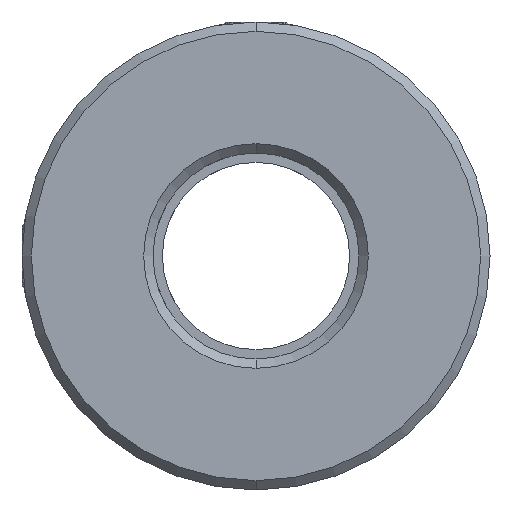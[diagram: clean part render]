
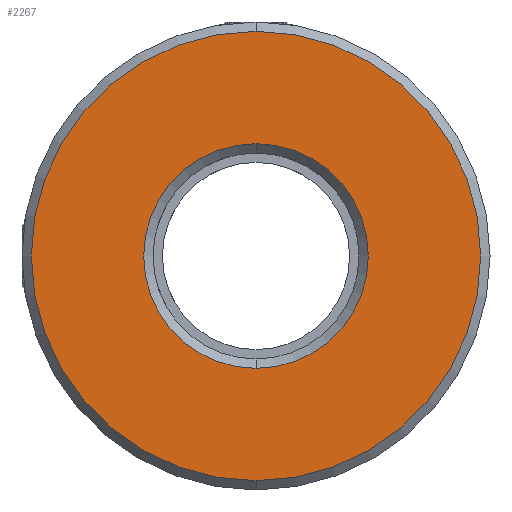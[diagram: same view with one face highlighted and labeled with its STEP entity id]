
A CAD part, front view. The second image highlights one B-rep face of the part: STEP entity #2267.
In plain terms, the highlighted planar face has unit normal (0, -1, 0).
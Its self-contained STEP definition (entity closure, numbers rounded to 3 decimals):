
#114 = CARTESIAN_POINT ( 'NONE',  ( -10.188, -0.277, -5.954 ) ) ;
#115 = VERTEX_POINT ( 'NONE', #1709 ) ;
#147 = DIRECTION ( 'NONE',  ( 0., 0., 1. ) ) ;
#192 = EDGE_LOOP ( 'NONE', ( #3038, #1374 ) ) ;
#258 = DIRECTION ( 'NONE',  ( 0., 0., 1. ) ) ;
#279 = DIRECTION ( 'NONE',  ( 0., 1., 0. ) ) ;
#292 = EDGE_CURVE ( 'NONE', #115, #3350, #2543, .T. ) ;
#331 = AXIS2_PLACEMENT_3D ( 'NONE', #549, #2558, #3148 ) ;
#546 = VERTEX_POINT ( 'NONE', #2378 ) ;
#549 = CARTESIAN_POINT ( 'NONE',  ( -10.188, -0.277, 0.046 ) ) ;
#550 = CARTESIAN_POINT ( 'NONE',  ( -10.188, -0.277, 0.046 ) ) ;
#576 = EDGE_CURVE ( 'NONE', #3603, #546, #2216, .T. ) ;
#758 = AXIS2_PLACEMENT_3D ( 'NONE', #550, #1455, #2320 ) ;
#1025 = CARTESIAN_POINT ( 'NONE',  ( -10.188, -0.277, -11.954 ) ) ;
#1129 = CARTESIAN_POINT ( 'NONE',  ( -10.188, -0.277, 0.046 ) ) ;
#1151 = DIRECTION ( 'NONE',  ( 0., 0., 1. ) ) ;
#1374 = ORIENTED_EDGE ( 'NONE', *, *, #1396, .T. ) ;
#1396 = EDGE_CURVE ( 'NONE', #546, #3603, #2519, .T. ) ;
#1410 = DIRECTION ( 'NONE',  ( 0., -1., 0. ) ) ;
#1455 = DIRECTION ( 'NONE',  ( 0., -1., 0. ) ) ;
#1603 = AXIS2_PLACEMENT_3D ( 'NONE', #1129, #279, #258 ) ;
#1709 = CARTESIAN_POINT ( 'NONE',  ( -10.188, -0.277, 12.046 ) ) ;
#1758 = ORIENTED_EDGE ( 'NONE', *, *, #292, .T. ) ;
#1796 = FACE_OUTER_BOUND ( 'NONE', #3006, .T. ) ;
#1982 = CARTESIAN_POINT ( 'NONE',  ( -10.188, -0.277, 0.046 ) ) ;
#2134 = EDGE_CURVE ( 'NONE', #3350, #115, #2394, .T. ) ;
#2216 = CIRCLE ( 'NONE', #2637, 6. ) ;
#2267 = ADVANCED_FACE ( 'NONE', ( #1796, #2561 ), #3696, .F. ) ;
#2320 = DIRECTION ( 'NONE',  ( 0., 0., 1. ) ) ;
#2378 = CARTESIAN_POINT ( 'NONE',  ( -10.188, -0.277, 6.046 ) ) ;
#2394 = CIRCLE ( 'NONE', #758, 12. ) ;
#2519 = CIRCLE ( 'NONE', #331, 6. ) ;
#2543 = CIRCLE ( 'NONE', #2731, 12. ) ;
#2558 = DIRECTION ( 'NONE',  ( 0., 1., 0. ) ) ;
#2561 = FACE_BOUND ( 'NONE', #192, .T. ) ;
#2637 = AXIS2_PLACEMENT_3D ( 'NONE', #3008, #2967, #147 ) ;
#2731 = AXIS2_PLACEMENT_3D ( 'NONE', #1982, #1410, #1151 ) ;
#2967 = DIRECTION ( 'NONE',  ( 0., 1., 0. ) ) ;
#3006 = EDGE_LOOP ( 'NONE', ( #1758, #3698 ) ) ;
#3008 = CARTESIAN_POINT ( 'NONE',  ( -10.188, -0.277, 0.046 ) ) ;
#3038 = ORIENTED_EDGE ( 'NONE', *, *, #576, .T. ) ;
#3148 = DIRECTION ( 'NONE',  ( 0., 0., 1. ) ) ;
#3350 = VERTEX_POINT ( 'NONE', #1025 ) ;
#3603 = VERTEX_POINT ( 'NONE', #114 ) ;
#3696 = PLANE ( 'NONE',  #1603 ) ;
#3698 = ORIENTED_EDGE ( 'NONE', *, *, #2134, .T. ) ;
